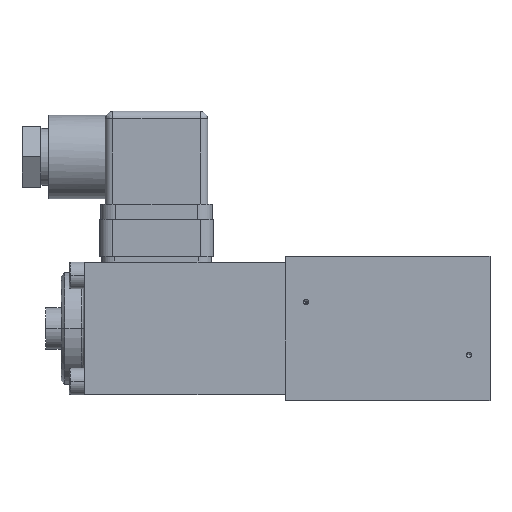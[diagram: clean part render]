
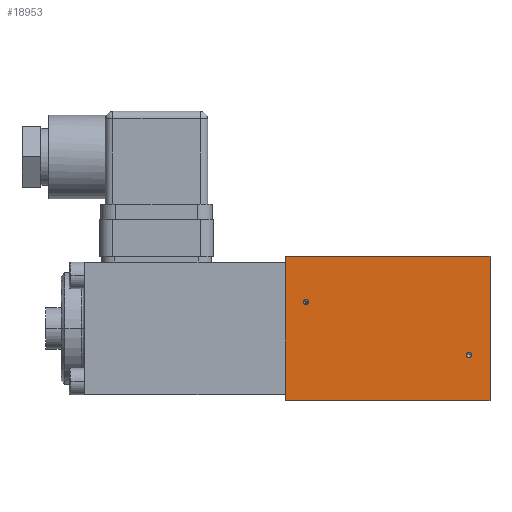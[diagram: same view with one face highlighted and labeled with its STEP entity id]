
A CAD part, top view. The second image highlights one B-rep face of the part: STEP entity #18953.
In plain terms, the highlighted planar face has unit normal (0, 0, 1).
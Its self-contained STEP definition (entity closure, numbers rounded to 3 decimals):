
#225 = CARTESIAN_POINT ( 'NONE',  ( 4.8, 7., 19. ) ) ;
#564 = CARTESIAN_POINT ( 'NONE',  ( 54., 19., 19. ) ) ;
#1836 = VERTEX_POINT ( 'NONE', #7366 ) ;
#2457 = DIRECTION ( 'NONE',  ( 0., 0., 1. ) ) ;
#2594 = AXIS2_PLACEMENT_3D ( 'NONE', #27442, #13939, #14354 ) ;
#2711 = CARTESIAN_POINT ( 'NONE',  ( 0., -19., 19. ) ) ;
#2889 = ORIENTED_EDGE ( 'NONE', *, *, #8587, .F. ) ;
#3277 = VERTEX_POINT ( 'NONE', #564 ) ;
#3774 = DIRECTION ( 'NONE',  ( 1., 0., 0. ) ) ;
#3960 = ORIENTED_EDGE ( 'NONE', *, *, #14915, .F. ) ;
#5100 = CARTESIAN_POINT ( 'NONE',  ( 48.5, -7., 19. ) ) ;
#5121 = DIRECTION ( 'NONE',  ( -1., 0., 0. ) ) ;
#5671 = VECTOR ( 'NONE', #11657, 1000. ) ;
#6820 = VECTOR ( 'NONE', #25647, 1000. ) ;
#6851 = VERTEX_POINT ( 'NONE', #28174 ) ;
#7149 = LINE ( 'NONE', #13433, #24313 ) ;
#7243 = EDGE_CURVE ( 'NONE', #17845, #6851, #25660, .T. ) ;
#7366 = CARTESIAN_POINT ( 'NONE',  ( 0., 19., 19. ) ) ;
#8587 = EDGE_CURVE ( 'NONE', #3277, #25430, #11025, .T. ) ;
#10089 = FACE_OUTER_BOUND ( 'NONE', #25164, .T. ) ;
#10459 = CARTESIAN_POINT ( 'NONE',  ( 48.5, -7., 19. ) ) ;
#10510 = ORIENTED_EDGE ( 'NONE', *, *, #7243, .F. ) ;
#10820 = PLANE ( 'NONE',  #24883 ) ;
#11025 = LINE ( 'NONE', #24062, #6820 ) ;
#11280 = DIRECTION ( 'NONE',  ( 1., 0., 0. ) ) ;
#11657 = DIRECTION ( 'NONE',  ( 0., -1., 0. ) ) ;
#12704 = DIRECTION ( 'NONE',  ( 0., 0., 1. ) ) ;
#12962 = DIRECTION ( 'NONE',  ( 0., 0., -1. ) ) ;
#13433 = CARTESIAN_POINT ( 'NONE',  ( 54., -19., 19. ) ) ;
#13939 = DIRECTION ( 'NONE',  ( 0., 0., 1. ) ) ;
#14354 = DIRECTION ( 'NONE',  ( 1., 0., 0. ) ) ;
#14867 = ORIENTED_EDGE ( 'NONE', *, *, #25593, .T. ) ;
#14915 = EDGE_CURVE ( 'NONE', #15859, #19174, #24112, .T. ) ;
#15841 = DIRECTION ( 'NONE',  ( 0., 0., 1. ) ) ;
#15853 = DIRECTION ( 'NONE',  ( 1., 0., 0. ) ) ;
#15859 = VERTEX_POINT ( 'NONE', #225 ) ;
#16555 = EDGE_CURVE ( 'NONE', #25430, #19878, #7149, .T. ) ;
#17454 = ORIENTED_EDGE ( 'NONE', *, *, #25739, .F. ) ;
#17509 = LINE ( 'NONE', #2711, #5671 ) ;
#17845 = VERTEX_POINT ( 'NONE', #28722 ) ;
#17981 = CARTESIAN_POINT ( 'NONE',  ( 5.5, 7., 19. ) ) ;
#18953 = ADVANCED_FACE ( 'NONE', ( #21278, #21596, #10089 ), #10820, .F. ) ;
#19174 = VERTEX_POINT ( 'NONE', #25650 ) ;
#19183 = AXIS2_PLACEMENT_3D ( 'NONE', #10459, #12704, #3774 ) ;
#19878 = VERTEX_POINT ( 'NONE', #25201 ) ;
#20343 = CIRCLE ( 'NONE', #26522, 0.7 ) ;
#20708 = EDGE_LOOP ( 'NONE', ( #17454, #10510 ) ) ;
#21278 = FACE_BOUND ( 'NONE', #23155, .T. ) ;
#21564 = ORIENTED_EDGE ( 'NONE', *, *, #21689, .T. ) ;
#21596 = FACE_BOUND ( 'NONE', #20708, .T. ) ;
#21689 = EDGE_CURVE ( 'NONE', #3277, #1836, #23896, .T. ) ;
#22028 = ORIENTED_EDGE ( 'NONE', *, *, #16555, .F. ) ;
#23155 = EDGE_LOOP ( 'NONE', ( #24746, #3960 ) ) ;
#23180 = VECTOR ( 'NONE', #23748, 1000. ) ;
#23748 = DIRECTION ( 'NONE',  ( -1., 0., 0. ) ) ;
#23896 = LINE ( 'NONE', #28728, #23180 ) ;
#24062 = CARTESIAN_POINT ( 'NONE',  ( 54., -19., 19. ) ) ;
#24112 = CIRCLE ( 'NONE', #27312, 0.7 ) ;
#24313 = VECTOR ( 'NONE', #5121, 1000. ) ;
#24746 = ORIENTED_EDGE ( 'NONE', *, *, #26766, .F. ) ;
#24883 = AXIS2_PLACEMENT_3D ( 'NONE', #28719, #12962, #26437 ) ;
#25164 = EDGE_LOOP ( 'NONE', ( #14867, #22028, #2889, #21564 ) ) ;
#25201 = CARTESIAN_POINT ( 'NONE',  ( 0., -19., 19. ) ) ;
#25430 = VERTEX_POINT ( 'NONE', #26403 ) ;
#25593 = EDGE_CURVE ( 'NONE', #1836, #19878, #17509, .T. ) ;
#25647 = DIRECTION ( 'NONE',  ( 0., -1., 0. ) ) ;
#25650 = CARTESIAN_POINT ( 'NONE',  ( 6.2, 7., 19. ) ) ;
#25660 = CIRCLE ( 'NONE', #19183, 0.7 ) ;
#25739 = EDGE_CURVE ( 'NONE', #6851, #17845, #20343, .T. ) ;
#26403 = CARTESIAN_POINT ( 'NONE',  ( 54., -19., 19. ) ) ;
#26437 = DIRECTION ( 'NONE',  ( -1., 0., 0. ) ) ;
#26522 = AXIS2_PLACEMENT_3D ( 'NONE', #5100, #15841, #11280 ) ;
#26766 = EDGE_CURVE ( 'NONE', #19174, #15859, #28002, .T. ) ;
#27312 = AXIS2_PLACEMENT_3D ( 'NONE', #17981, #2457, #15853 ) ;
#27442 = CARTESIAN_POINT ( 'NONE',  ( 5.5, 7., 19. ) ) ;
#28002 = CIRCLE ( 'NONE', #2594, 0.7 ) ;
#28174 = CARTESIAN_POINT ( 'NONE',  ( 49.2, -7., 19. ) ) ;
#28719 = CARTESIAN_POINT ( 'NONE',  ( 54., -19., 19. ) ) ;
#28722 = CARTESIAN_POINT ( 'NONE',  ( 47.8, -7., 19. ) ) ;
#28728 = CARTESIAN_POINT ( 'NONE',  ( 54., 19., 19. ) ) ;
